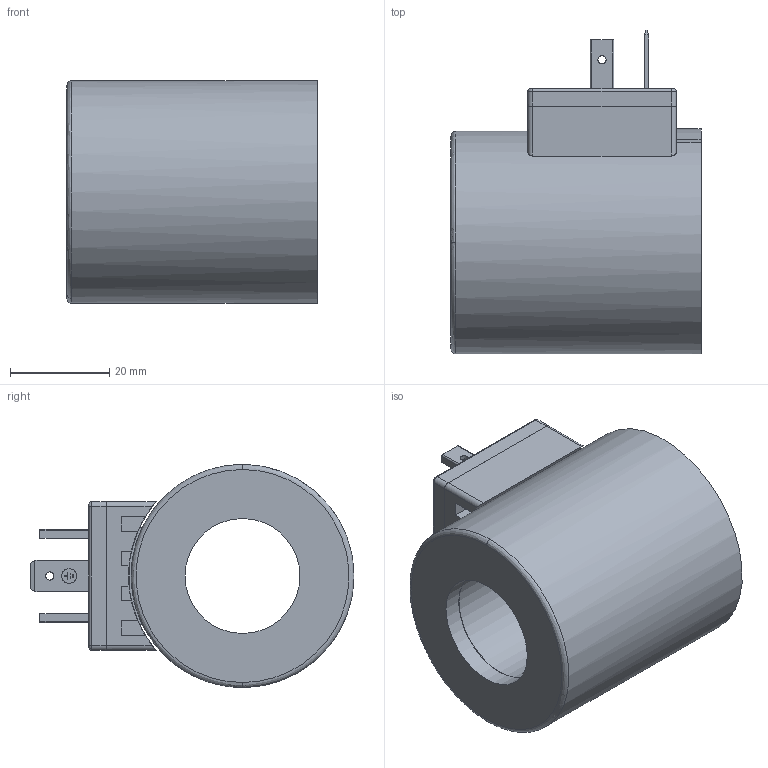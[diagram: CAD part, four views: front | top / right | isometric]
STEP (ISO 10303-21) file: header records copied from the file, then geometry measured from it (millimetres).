
FILE_DESCRIPTION (( 'STEP AP214' ), '1' );
FILE_NAME ('WDE45_23x50.STEP', '2018-03-09T08:59:33', ( '' ), ( '' ), 'SwSTEP 2.0', 'SolidWorks 2016', '' );
FILE_SCHEMA (( 'AUTOMOTIVE_DESIGN' ));
Length unit declared in the file: millimetre
Products named in the file (1): WDE45_23x50
Bounding box: 50.5 x 65.4 x 45 mm (x, y, z)
Volume: 66978.1 mm3; surface area: 19547.1 mm2
Topology: 2 solids, 2 shells, 145 faces, 411 edges, 280 vertices
Faces by surface type: plane 90, cylinder 40, bspline 14, cone 1
Full cylindrical faces by diameter (mm): 1.65 x3, 3 x1, 21 x1, 23.2 x2, 23.4 x1, 38 x1, 38.795 x1, 41.325 x1, 45 x1
Entity records: 8773 total; most frequent: CARTESIAN_POINT 3956, ORIENTED_EDGE 786, DIRECTION 612, EDGE_CURVE 393, VERTEX_POINT 277, VECTOR 220, LINE 220, AXIS2_PLACEMENT_3D 196
